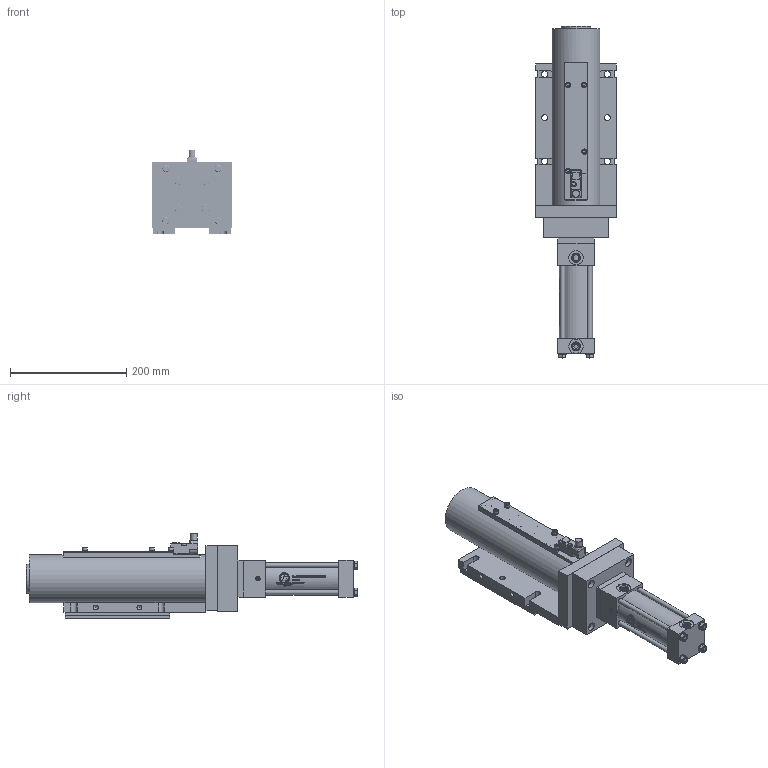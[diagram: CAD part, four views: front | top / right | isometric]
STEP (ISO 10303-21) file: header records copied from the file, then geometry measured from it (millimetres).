
FILE_DESCRIPTION(/* description */ (''),/* implementation_level */ '2;1');
FILE_NAME(/* name */ 'C:\TEMP\HP5 Bull Pins\HP5-H100VE000.stp',/* time_stamp */ '2016-01-20T07:14:14-05:00',/* author */ ('klabrecque'),/* organization */ (''),/* preprocessor_version */ 'ST-DEVELOPER v15.2',/* originating_system */ 'Autodesk Inventor 2014',/* authorisation */ '');
FILE_SCHEMA (('AUTOMOTIVE_DESIGN { 1 0 10303 214 3 1 1 }'));
Products named in the file (17): HP5E01; HP5E04; HP5E05; HP5E02; H4-M-B2.0F-3.82S1.00F4S11; HP5E06; NL8; 0.313-24X1.500 SHCS; HP5E14; HP5E10; M4X0.7-10 SHCS; M5X0.8-10 SHCS; M5X0.8-25 SHCS; NL5; WORLD-SWITCH-BODY_PF; 6950160; HP5-H100VE000
Bounding box: 138 x 571.19 x 145.27 mm (x, y, z)
Volume: 3344016.4 mm3; surface area: 771959.7 mm2
Topology: 150 solids, 150 shells, 3896 faces, 9134 edges, 5726 vertices
Faces by surface type: plane 1474, cylinder 1236, cone 638, bspline 540, sphere 6, torus 2
Full cylindrical faces by diameter (mm): 0.381 x3, 2 x2, 2.381 x3, 3.242 x8, 3.572 x3, 4 x7, 4.134 x14, 4.5 x6, 4.763 x3, 4.917 x4, 5 x5, 5.3 x1, 5.4 x4, 5.5 x4, 6 x1, 6.35 x2, 6.647 x1, 6.782 x8, 6.792 x230, 7 x6, 7.544 x1, 7.938 x237, 8 x6, 8.376 x4, 8.5 x9, 8.7 x4, 9 x4, 10 x4, 11 x7, 11.843 x2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
Entity records: 158955 total; most frequent: CARTESIAN_POINT 80840, DIRECTION 15135, ORIENTED_EDGE 14806, EDGE_CURVE 7403, AXIS2_PLACEMENT_3D 6065, VERTEX_POINT 5407, EDGE_LOOP 5364, ADVANCED_FACE 3699
